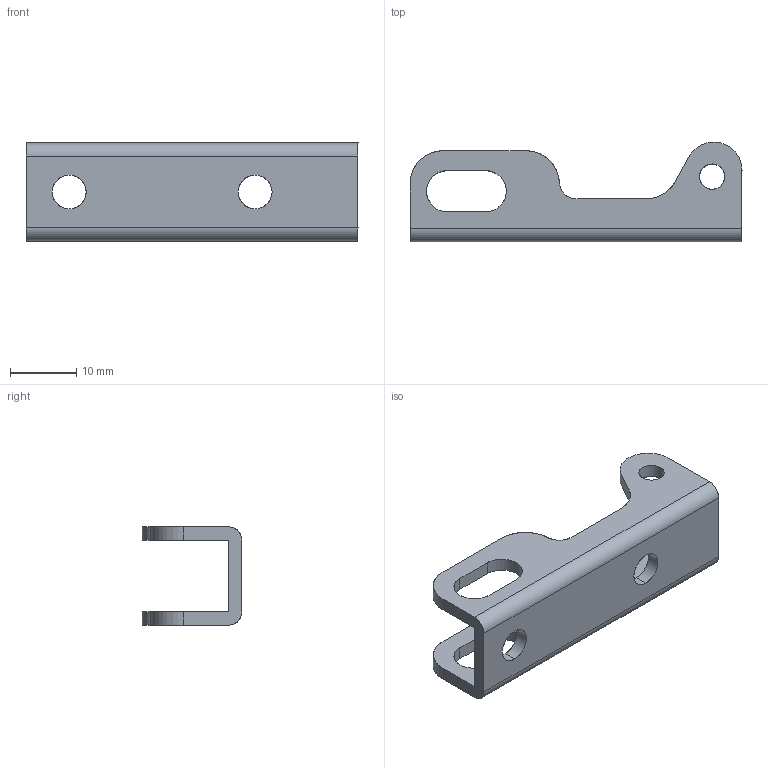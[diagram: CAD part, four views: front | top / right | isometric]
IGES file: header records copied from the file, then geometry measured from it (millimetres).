
Start section: SolidWorks IGES FILE using analytic representation for surfaces
Global section: file name: C:\Documents and Settings\brechard\Bureau\GE 577\545.020.00.IGS; native system: SolidWorks 2001Plus by SolidWorks Corporation; preprocessor: Version 5.3; author: brechard; date: 050126.101056; units: millimetre
Bounding box: 50 x 14.99 x 14.8 mm (x, y, z)
Surface area: 3413.8 mm2 (no closed solid volume)
Topology: 0 solids, 0 shells, 46 faces, 820 edges, 820 vertices
Faces by surface type: revolution 26, bspline 20
